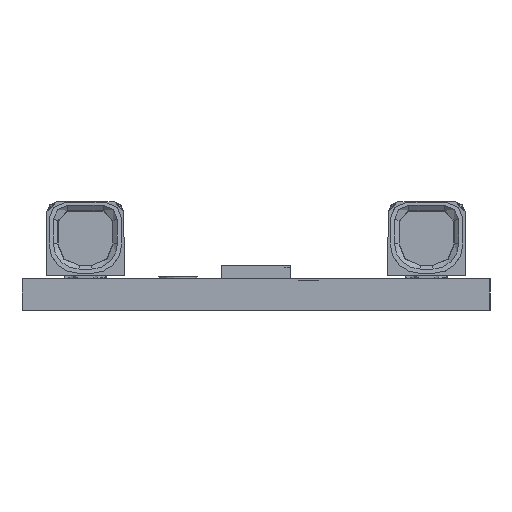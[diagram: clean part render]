
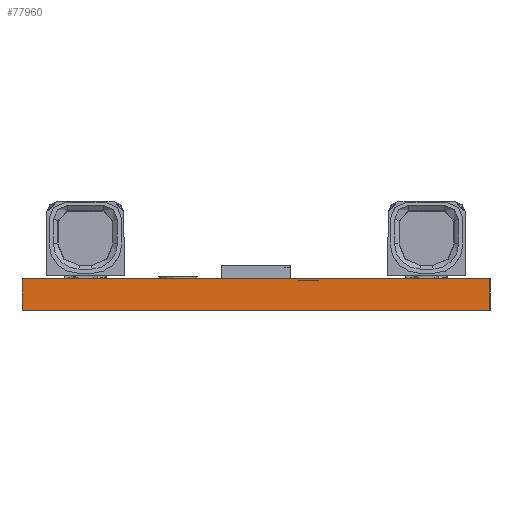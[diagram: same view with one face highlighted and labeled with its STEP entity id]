
A CAD part, left-side view. The second image highlights one B-rep face of the part: STEP entity #77960.
In plain terms, the highlighted planar face has unit normal (-1, 0, 0).
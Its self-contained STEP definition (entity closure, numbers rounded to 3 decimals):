
#10693 = VERTEX_POINT ( 'NONE', #280989 ) ;
#27612 = VERTEX_POINT ( 'NONE', #62027 ) ;
#28337 = VECTOR ( 'NONE', #74504, 1000. ) ;
#50794 = ORIENTED_EDGE ( 'NONE', *, *, #178425, .F. ) ;
#62027 = CARTESIAN_POINT ( 'NONE',  ( -140., -12., 1.6 ) ) ;
#63368 = CARTESIAN_POINT ( 'NONE',  ( -140., 12., 0. ) ) ;
#74504 = DIRECTION ( 'NONE',  ( 0., 0., -1. ) ) ;
#77960 = ADVANCED_FACE ( 'NONE', ( #278687 ), #161048, .F. ) ;
#81485 = CARTESIAN_POINT ( 'NONE',  ( -140., -12., 1.6 ) ) ;
#106210 = VECTOR ( 'NONE', #171233, 1000. ) ;
#134250 = VECTOR ( 'NONE', #199316, 1000. ) ;
#135261 = VECTOR ( 'NONE', #227615, 1000. ) ;
#140599 = EDGE_CURVE ( 'NONE', #27612, #10693, #224434, .T. ) ;
#143042 = LINE ( 'NONE', #196324, #106210 ) ;
#149456 = ORIENTED_EDGE ( 'NONE', *, *, #140599, .F. ) ;
#153315 = ORIENTED_EDGE ( 'NONE', *, *, #245457, .T. ) ;
#161048 = PLANE ( 'NONE',  #216136 ) ;
#171233 = DIRECTION ( 'NONE',  ( 0., -1., 0. ) ) ;
#178425 = EDGE_CURVE ( 'NONE', #179562, #27612, #251150, .T. ) ;
#179562 = VERTEX_POINT ( 'NONE', #281950 ) ;
#180003 = CARTESIAN_POINT ( 'NONE',  ( -140., -12., 1.6 ) ) ;
#186147 = DIRECTION ( 'NONE',  ( 0., 0., -1. ) ) ;
#190472 = VERTEX_POINT ( 'NONE', #63368 ) ;
#196324 = CARTESIAN_POINT ( 'NONE',  ( -140., -12., 0. ) ) ;
#199316 = DIRECTION ( 'NONE',  ( 0., 0., -1. ) ) ;
#208334 = ORIENTED_EDGE ( 'NONE', *, *, #219110, .T. ) ;
#209832 = DIRECTION ( 'NONE',  ( 1., 0., 0. ) ) ;
#216136 = AXIS2_PLACEMENT_3D ( 'NONE', #180003, #209832, #186147 ) ;
#218003 = EDGE_LOOP ( 'NONE', ( #208334, #149456, #50794, #153315 ) ) ;
#219110 = EDGE_CURVE ( 'NONE', #190472, #10693, #143042, .T. ) ;
#222198 = CARTESIAN_POINT ( 'NONE',  ( -140., 12., 1.6 ) ) ;
#222909 = CARTESIAN_POINT ( 'NONE',  ( -140., -12., 1.6 ) ) ;
#224434 = LINE ( 'NONE', #222909, #134250 ) ;
#227615 = DIRECTION ( 'NONE',  ( 0., -1., 0. ) ) ;
#245457 = EDGE_CURVE ( 'NONE', #179562, #190472, #272236, .T. ) ;
#251150 = LINE ( 'NONE', #81485, #135261 ) ;
#272236 = LINE ( 'NONE', #222198, #28337 ) ;
#278687 = FACE_OUTER_BOUND ( 'NONE', #218003, .T. ) ;
#280989 = CARTESIAN_POINT ( 'NONE',  ( -140., -12., 0. ) ) ;
#281950 = CARTESIAN_POINT ( 'NONE',  ( -140., 12., 1.6 ) ) ;
